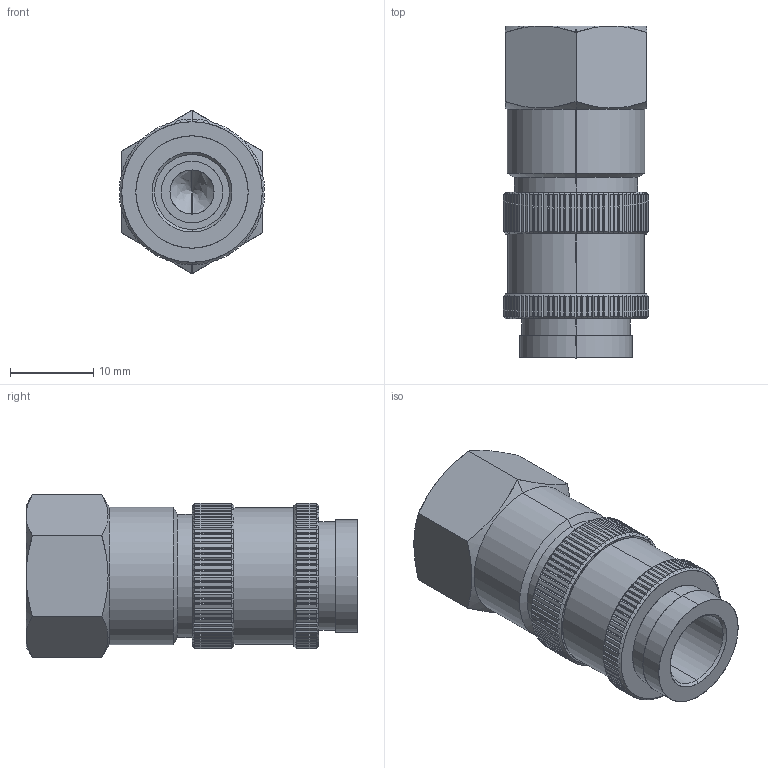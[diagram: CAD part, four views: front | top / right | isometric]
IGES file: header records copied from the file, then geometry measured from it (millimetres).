
Start section: SolidWorks IGES file using analytic representation for surfaces
Global section: file name: C:\Salvar\Planos Compartidos\Acoples Rapidos TZS\TZS-SF.IGS; native system: SolidWorks 2022; preprocessor: SolidWorks 2022; author: osval; date: 220426.125341; units: millimetre
Bounding box: 17.5 x 39.9 x 19.63 mm (x, y, z)
Surface area: 3980.6 mm2 (no closed solid volume)
Topology: 0 solids, 0 shells, 542 faces, 3903 edges, 3901 vertices
Faces by surface type: bspline 337, revolution 205
